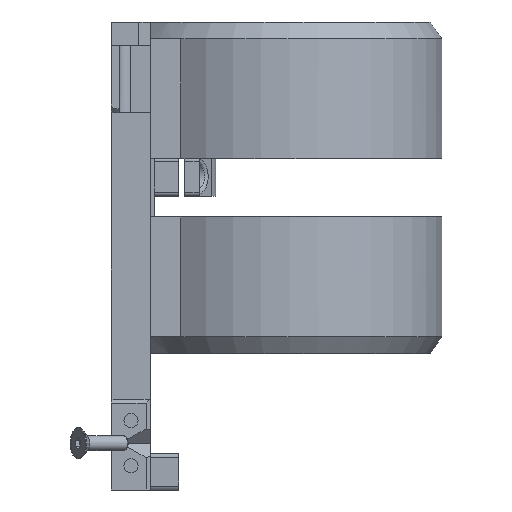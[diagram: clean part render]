
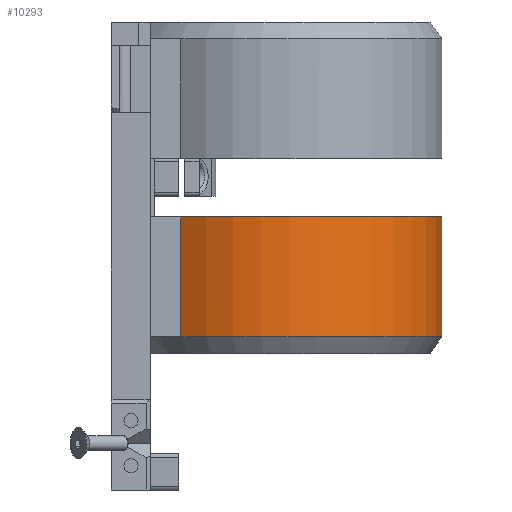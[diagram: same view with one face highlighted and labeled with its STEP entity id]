
A CAD part, left-side view. The second image highlights one B-rep face of the part: STEP entity #10293.
In plain terms, the highlighted cylindrical face has radius 42.45 mm (diameter 84.9 mm), a partial arc.
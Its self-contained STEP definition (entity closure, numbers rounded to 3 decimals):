
#63=B_SPLINE_CURVE_WITH_KNOTS('',3,(#16159,#16160,#16161,#16162,#16163,
#16164,#16165,#16166,#16167,#16168,#16169,#16170,#16171,#16172),
 .UNSPECIFIED.,.F.,.F.,(4,2,2,2,2,2,4),(7.557,7.663,
7.769,7.972,8.175,8.65,8.923),
 .UNSPECIFIED.);
#66=B_SPLINE_CURVE_WITH_KNOTS('',3,(#16201,#16202,#16203,#16204,#16205,
#16206,#16207,#16208,#16209,#16210,#16211,#16212,#16213,#16214),
 .UNSPECIFIED.,.F.,.F.,(4,2,2,2,2,2,4),(6.191,6.464,
6.939,7.142,7.345,7.451,7.557),
 .UNSPECIFIED.);
#67=B_SPLINE_CURVE_WITH_KNOTS('',3,(#16224,#16225,#16226,#16227,#16228,
#16229,#16230,#16231,#16232,#16233,#16234,#16235,#16236,#16237),
 .UNSPECIFIED.,.F.,.F.,(4,2,2,2,2,2,4),(7.557,7.663,
7.769,7.972,8.175,8.65,8.923),
 .UNSPECIFIED.);
#70=B_SPLINE_CURVE_WITH_KNOTS('',3,(#16266,#16267,#16268,#16269,#16270,
#16271,#16272,#16273,#16274,#16275,#16276,#16277,#16278,#16279),
 .UNSPECIFIED.,.F.,.F.,(4,2,2,2,2,2,4),(6.191,6.464,
6.939,7.142,7.345,7.451,7.557),
 .UNSPECIFIED.);
#71=B_SPLINE_CURVE_WITH_KNOTS('',3,(#16308,#16309,#16310,#16311,#16312),
 .UNSPECIFIED.,.F.,.F.,(4,1,4),(2.538,2.72,2.749),
 .UNSPECIFIED.);
#72=B_SPLINE_CURVE_WITH_KNOTS('',3,(#16318,#16319,#16320,#16321,#16322,
#16323,#16324),.UNSPECIFIED.,.F.,.F.,(4,3,4),(3.169,3.355,
3.559),.UNSPECIFIED.);
#288=CYLINDRICAL_SURFACE('',#10992,42.45);
#670=CIRCLE('',#10972,42.45);
#680=CIRCLE('',#10993,42.45);
#1116=FACE_OUTER_BOUND('',#1698,.T.);
#1698=EDGE_LOOP('',(#7535,#7536,#7537,#7538,#7539,#7540,#7541,#7542,#7543,
#7544,#7545,#7546));
#2448=LINE('',#16300,#3434);
#2449=LINE('',#16302,#3435);
#2452=LINE('',#16314,#3438);
#2453=LINE('',#16325,#3439);
#3434=VECTOR('',#12490,10.);
#3435=VECTOR('',#12493,10.);
#3438=VECTOR('',#12502,10.);
#3439=VECTOR('',#12505,10.);
#4445=VERTEX_POINT('',#16130);
#4446=VERTEX_POINT('',#16132);
#4452=VERTEX_POINT('',#16156);
#4453=VERTEX_POINT('',#16158);
#4456=VERTEX_POINT('',#16188);
#4459=VERTEX_POINT('',#16221);
#4460=VERTEX_POINT('',#16223);
#4463=VERTEX_POINT('',#16253);
#4471=VERTEX_POINT('',#16298);
#4472=VERTEX_POINT('',#16313);
#4473=VERTEX_POINT('',#16315);
#4474=VERTEX_POINT('',#16317);
#5580=EDGE_CURVE('',#4446,#4445,#670,.T.);
#5589=EDGE_CURVE('',#4452,#4453,#63,.T.);
#5593=EDGE_CURVE('',#4456,#4452,#66,.T.);
#5597=EDGE_CURVE('',#4459,#4460,#67,.T.);
#5601=EDGE_CURVE('',#4463,#4459,#70,.T.);
#5612=EDGE_CURVE('',#4463,#4471,#2448,.T.);
#5613=EDGE_CURVE('',#4456,#4460,#2449,.T.);
#5616=EDGE_CURVE('',#4471,#4446,#71,.T.);
#5617=EDGE_CURVE('',#4472,#4445,#2452,.T.);
#5618=EDGE_CURVE('',#4472,#4473,#680,.T.);
#5619=EDGE_CURVE('',#4473,#4474,#72,.T.);
#5620=EDGE_CURVE('',#4474,#4453,#2453,.T.);
#7535=ORIENTED_EDGE('',*,*,#5593,.F.);
#7536=ORIENTED_EDGE('',*,*,#5613,.T.);
#7537=ORIENTED_EDGE('',*,*,#5597,.F.);
#7538=ORIENTED_EDGE('',*,*,#5601,.F.);
#7539=ORIENTED_EDGE('',*,*,#5612,.T.);
#7540=ORIENTED_EDGE('',*,*,#5616,.T.);
#7541=ORIENTED_EDGE('',*,*,#5580,.T.);
#7542=ORIENTED_EDGE('',*,*,#5617,.F.);
#7543=ORIENTED_EDGE('',*,*,#5618,.T.);
#7544=ORIENTED_EDGE('',*,*,#5619,.T.);
#7545=ORIENTED_EDGE('',*,*,#5620,.T.);
#7546=ORIENTED_EDGE('',*,*,#5589,.F.);
#10293=ADVANCED_FACE('',(#1116),#288,.T.);
#10972=AXIS2_PLACEMENT_3D('',#16133,#12443,#12444);
#10992=AXIS2_PLACEMENT_3D('',#16307,#12500,#12501);
#10993=AXIS2_PLACEMENT_3D('',#16316,#12503,#12504);
#12443=DIRECTION('center_axis',(0.,0.,-1.));
#12444=DIRECTION('ref_axis',(-1.,0.,0.));
#12490=DIRECTION('',(0.,0.,1.));
#12493=DIRECTION('',(0.,0.,1.));
#12500=DIRECTION('center_axis',(0.,0.,-1.));
#12501=DIRECTION('ref_axis',(-1.,0.,0.));
#12502=DIRECTION('',(0.,0.,1.));
#12503=DIRECTION('center_axis',(0.,0.,1.));
#12504=DIRECTION('ref_axis',(-1.,0.,0.));
#12505=DIRECTION('',(0.,0.,1.));
#16130=CARTESIAN_POINT('',(-25.,-12.787,70.));
#16132=CARTESIAN_POINT('',(50.487,-48.802,70.));
#16133=CARTESIAN_POINT('Origin',(9.603,-37.376,70.));
#16156=CARTESIAN_POINT('',(45.25,-60.427,49.75));
#16158=CARTESIAN_POINT('',(50.34,-49.314,45.346));
#16159=CARTESIAN_POINT('Ctrl Pts',(45.25,-60.427,49.75));
#16160=CARTESIAN_POINT('Ctrl Pts',(45.25,-60.427,49.396));
#16161=CARTESIAN_POINT('Ctrl Pts',(45.295,-60.357,49.024));
#16162=CARTESIAN_POINT('Ctrl Pts',(45.464,-60.092,48.34));
#16163=CARTESIAN_POINT('Ctrl Pts',(45.586,-59.899,48.027));
#16164=CARTESIAN_POINT('Ctrl Pts',(45.958,-59.297,47.279));
#16165=CARTESIAN_POINT('Ctrl Pts',(46.27,-58.777,46.879));
#16166=CARTESIAN_POINT('Ctrl Pts',(46.914,-57.633,46.251));
#16167=CARTESIAN_POINT('Ctrl Pts',(47.246,-57.01,46.022));
#16168=CARTESIAN_POINT('Ctrl Pts',(48.23,-55.05,45.476));
#16169=CARTESIAN_POINT('Ctrl Pts',(48.875,-53.575,45.34));
#16170=CARTESIAN_POINT('Ctrl Pts',(49.769,-51.146,45.288));
#16171=CARTESIAN_POINT('Ctrl Pts',(50.069,-50.238,45.307));
#16172=CARTESIAN_POINT('Ctrl Pts',(50.34,-49.314,45.346));
#16188=CARTESIAN_POINT('',(50.34,-49.314,54.153));
#16201=CARTESIAN_POINT('Ctrl Pts',(50.34,-49.314,54.153));
#16202=CARTESIAN_POINT('Ctrl Pts',(50.069,-50.238,54.193));
#16203=CARTESIAN_POINT('Ctrl Pts',(49.769,-51.146,54.211));
#16204=CARTESIAN_POINT('Ctrl Pts',(48.875,-53.575,54.16));
#16205=CARTESIAN_POINT('Ctrl Pts',(48.23,-55.05,54.023));
#16206=CARTESIAN_POINT('Ctrl Pts',(47.246,-57.01,53.477));
#16207=CARTESIAN_POINT('Ctrl Pts',(46.914,-57.633,53.249));
#16208=CARTESIAN_POINT('Ctrl Pts',(46.27,-58.777,52.621));
#16209=CARTESIAN_POINT('Ctrl Pts',(45.958,-59.297,52.22));
#16210=CARTESIAN_POINT('Ctrl Pts',(45.586,-59.899,51.472));
#16211=CARTESIAN_POINT('Ctrl Pts',(45.464,-60.092,51.159));
#16212=CARTESIAN_POINT('Ctrl Pts',(45.295,-60.357,50.475));
#16213=CARTESIAN_POINT('Ctrl Pts',(45.25,-60.427,50.104));
#16214=CARTESIAN_POINT('Ctrl Pts',(45.25,-60.427,49.75));
#16221=CARTESIAN_POINT('',(45.25,-60.427,62.75));
#16223=CARTESIAN_POINT('',(50.34,-49.314,58.346));
#16224=CARTESIAN_POINT('Ctrl Pts',(45.25,-60.427,62.75));
#16225=CARTESIAN_POINT('Ctrl Pts',(45.25,-60.427,62.396));
#16226=CARTESIAN_POINT('Ctrl Pts',(45.295,-60.357,62.024));
#16227=CARTESIAN_POINT('Ctrl Pts',(45.464,-60.092,61.34));
#16228=CARTESIAN_POINT('Ctrl Pts',(45.586,-59.899,61.027));
#16229=CARTESIAN_POINT('Ctrl Pts',(45.958,-59.297,60.279));
#16230=CARTESIAN_POINT('Ctrl Pts',(46.27,-58.777,59.879));
#16231=CARTESIAN_POINT('Ctrl Pts',(46.914,-57.633,59.251));
#16232=CARTESIAN_POINT('Ctrl Pts',(47.246,-57.01,59.022));
#16233=CARTESIAN_POINT('Ctrl Pts',(48.23,-55.05,58.476));
#16234=CARTESIAN_POINT('Ctrl Pts',(48.875,-53.575,58.34));
#16235=CARTESIAN_POINT('Ctrl Pts',(49.769,-51.146,58.288));
#16236=CARTESIAN_POINT('Ctrl Pts',(50.069,-50.238,58.307));
#16237=CARTESIAN_POINT('Ctrl Pts',(50.34,-49.314,58.346));
#16253=CARTESIAN_POINT('',(50.34,-49.314,67.153));
#16266=CARTESIAN_POINT('Ctrl Pts',(50.34,-49.314,67.153));
#16267=CARTESIAN_POINT('Ctrl Pts',(50.069,-50.238,67.193));
#16268=CARTESIAN_POINT('Ctrl Pts',(49.769,-51.146,67.211));
#16269=CARTESIAN_POINT('Ctrl Pts',(48.875,-53.575,67.16));
#16270=CARTESIAN_POINT('Ctrl Pts',(48.23,-55.05,67.023));
#16271=CARTESIAN_POINT('Ctrl Pts',(47.246,-57.01,66.477));
#16272=CARTESIAN_POINT('Ctrl Pts',(46.914,-57.633,66.249));
#16273=CARTESIAN_POINT('Ctrl Pts',(46.27,-58.777,65.621));
#16274=CARTESIAN_POINT('Ctrl Pts',(45.958,-59.297,65.22));
#16275=CARTESIAN_POINT('Ctrl Pts',(45.586,-59.899,64.472));
#16276=CARTESIAN_POINT('Ctrl Pts',(45.464,-60.092,64.159));
#16277=CARTESIAN_POINT('Ctrl Pts',(45.295,-60.357,63.475));
#16278=CARTESIAN_POINT('Ctrl Pts',(45.25,-60.427,63.104));
#16279=CARTESIAN_POINT('Ctrl Pts',(45.25,-60.427,62.75));
#16298=CARTESIAN_POINT('',(50.34,-49.314,68.));
#16300=CARTESIAN_POINT('',(50.34,-49.314,35.));
#16302=CARTESIAN_POINT('',(50.34,-49.314,35.));
#16307=CARTESIAN_POINT('Origin',(9.603,-37.376,35.));
#16308=CARTESIAN_POINT('Ctrl Pts',(50.34,-49.314,68.));
#16309=CARTESIAN_POINT('Ctrl Pts',(50.34,-49.314,68.607));
#16310=CARTESIAN_POINT('Ctrl Pts',(50.386,-49.158,69.306));
#16311=CARTESIAN_POINT('Ctrl Pts',(50.474,-48.846,69.919));
#16312=CARTESIAN_POINT('Ctrl Pts',(50.487,-48.801,70.));
#16313=CARTESIAN_POINT('',(-25.,-12.787,39.284));
#16314=CARTESIAN_POINT('',(-25.,-12.787,35.));
#16315=CARTESIAN_POINT('',(50.546,-48.587,39.284));
#16316=CARTESIAN_POINT('Origin',(9.603,-37.376,39.284));
#16317=CARTESIAN_POINT('',(50.34,-49.314,43.07));
#16318=CARTESIAN_POINT('Ctrl Pts',(50.546,-48.587,39.284));
#16319=CARTESIAN_POINT('Ctrl Pts',(50.475,-48.848,39.834));
#16320=CARTESIAN_POINT('Ctrl Pts',(50.425,-49.021,40.43));
#16321=CARTESIAN_POINT('Ctrl Pts',(50.392,-49.135,41.038));
#16322=CARTESIAN_POINT('Ctrl Pts',(50.356,-49.26,41.706));
#16323=CARTESIAN_POINT('Ctrl Pts',(50.34,-49.314,42.388));
#16324=CARTESIAN_POINT('Ctrl Pts',(50.34,-49.314,43.07));
#16325=CARTESIAN_POINT('',(50.34,-49.314,35.));
